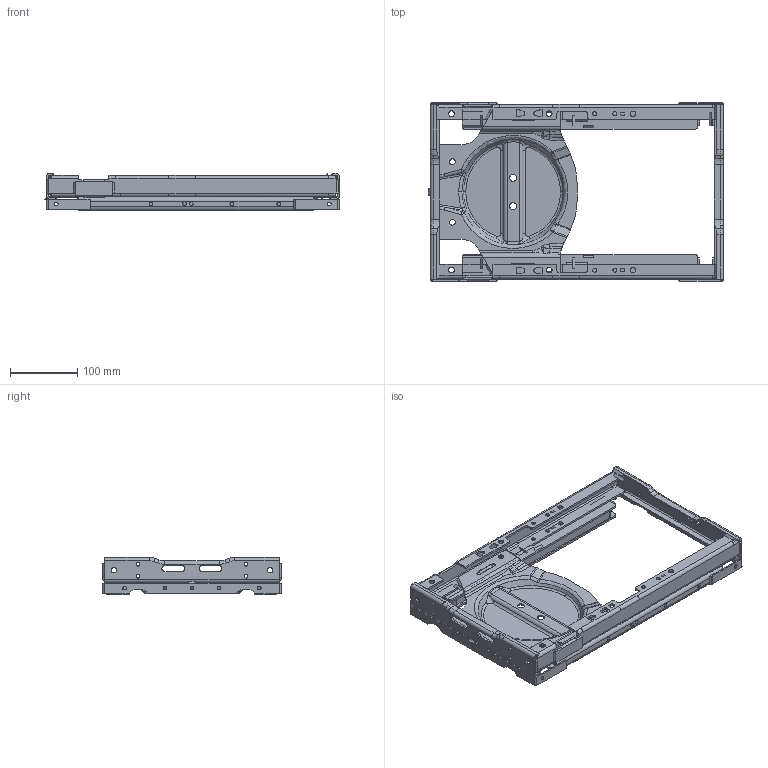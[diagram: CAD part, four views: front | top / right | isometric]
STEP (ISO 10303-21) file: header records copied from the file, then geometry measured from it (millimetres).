
FILE_DESCRIPTION(('CATIA V5 STEP Exchange'),'2;1');
FILE_NAME('D:\Gao Bingchuan\Desktop\3.1C 下框焊接总成 for 重汽_20240403.stp','2024-04-03T03:01:30+00:00',('none'),('none'),'CATIA Version 5 Release 20 GA (IN-10)','CATIA V5 STEP AP203 Edition 2','none');
FILE_SCHEMA(('AP203_CONFIGURATION_CONTROLLED_3D_DESIGN_OF_MECHANICAL_PARTS_AND_ASSEMBLIES_MIM_LF { 1 0 10303 403 2 1 2}'));
Products named in the file (1): SHT0016420_AllCATPart
Bounding box: 437.63 x 266.2 x 55.01 mm (x, y, z)
Volume: 541370.9 mm3; surface area: 444695.4 mm2
Topology: 100 solids, 100 shells, 1427 faces, 3587 edges, 2352 vertices
Faces by surface type: plane 751, cylinder 506, bspline 88, cone 36, torus 34, sphere 8, extrusion 4
Entity records: 97685 total; most frequent: CARTESIAN_POINT 62975, ORIENTED_EDGE 7158, DIRECTION 5254, EDGE_CURVE 3579, VERTEX_POINT 2352, VECTOR 2126, LINE 2122, AXIS2_PLACEMENT_3D 1957
